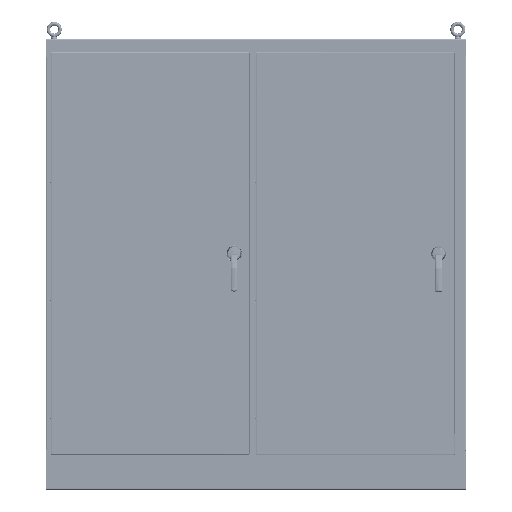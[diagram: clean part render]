
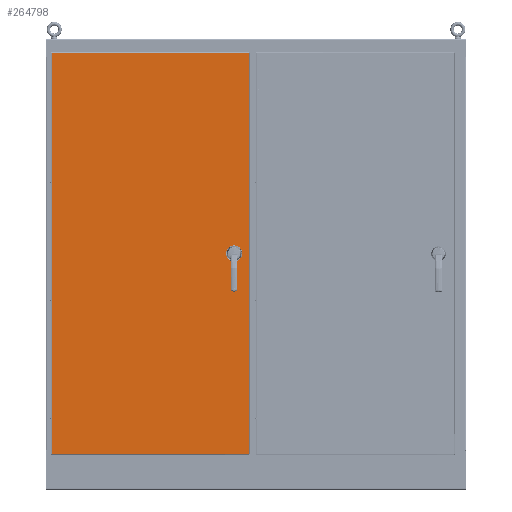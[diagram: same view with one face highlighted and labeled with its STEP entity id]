
A CAD part, top view. The second image highlights one B-rep face of the part: STEP entity #264798.
In plain terms, the highlighted planar face has unit normal (0, 0, 1).
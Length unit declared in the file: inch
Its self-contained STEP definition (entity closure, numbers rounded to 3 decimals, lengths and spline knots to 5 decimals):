
#2548 = DIRECTION ( 'NONE',  ( 1., 0., 0. ) ) ;
#10810 = VERTEX_POINT ( 'NONE', #206520 ) ;
#15557 = CARTESIAN_POINT ( 'NONE',  ( 14.922, 0., 0.097 ) ) ;
#15565 = CARTESIAN_POINT ( 'NONE',  ( 15.406, 0., 0.097 ) ) ;
#20837 = ORIENTED_EDGE ( 'NONE', *, *, #73776, .T. ) ;
#21430 = CARTESIAN_POINT ( 'NONE',  ( 16.5935, 0., 0.097 ) ) ;
#34531 = EDGE_CURVE ( 'NONE', #68730, #172227, #241942, .T. ) ;
#34646 = CARTESIAN_POINT ( 'NONE',  ( -18.3755, -37.388, 0.097 ) ) ;
#36219 = AXIS2_PLACEMENT_3D ( 'NONE', #21430, #62578, #64396 ) ;
#36306 = AXIS2_PLACEMENT_3D ( 'NONE', #265255, #223193, #78820 ) ;
#43760 = CARTESIAN_POINT ( 'NONE',  ( 14.7815, 0., 0.097 ) ) ;
#52801 = EDGE_LOOP ( 'NONE', ( #238239, #180896, #20837, #133561 ) ) ;
#54551 = CARTESIAN_POINT ( 'NONE',  ( -18.5625, 37.575, 0.097 ) ) ;
#58219 = DIRECTION ( 'NONE',  ( 0., 0., 1. ) ) ;
#58711 = FACE_BOUND ( 'NONE', #75690, .T. ) ;
#61120 = VERTEX_POINT ( 'NONE', #15557 ) ;
#62578 = DIRECTION ( 'NONE',  ( 0., 0., 1. ) ) ;
#64396 = DIRECTION ( 'NONE',  ( 1., 0., 0. ) ) ;
#64444 = CARTESIAN_POINT ( 'NONE',  ( 394.3125, 37.388, 0.097 ) ) ;
#65942 = LINE ( 'NONE', #64444, #157525 ) ;
#66273 = AXIS2_PLACEMENT_3D ( 'NONE', #54551, #159676, #76419 ) ;
#68730 = VERTEX_POINT ( 'NONE', #75955 ) ;
#71832 = ORIENTED_EDGE ( 'NONE', *, *, #250217, .F. ) ;
#73198 = EDGE_CURVE ( 'NONE', #207415, #61120, #173984, .T. ) ;
#73776 = EDGE_CURVE ( 'NONE', #213239, #68730, #65942, .T. ) ;
#74668 = CARTESIAN_POINT ( 'NONE',  ( -18.5625, -37.388, 0.097 ) ) ;
#75690 = EDGE_LOOP ( 'NONE', ( #71832, #144817 ) ) ;
#75955 = CARTESIAN_POINT ( 'NONE',  ( -18.3755, 37.388, 0.097 ) ) ;
#76419 = DIRECTION ( 'NONE',  ( -1., 0., 0. ) ) ;
#77310 = PLANE ( 'NONE',  #66273 ) ;
#78820 = DIRECTION ( 'NONE',  ( 1., 0., 0. ) ) ;
#93191 = ORIENTED_EDGE ( 'NONE', *, *, #249765, .F. ) ;
#93871 = AXIS2_PLACEMENT_3D ( 'NONE', #266526, #58219, #224441 ) ;
#105965 = DIRECTION ( 'NONE',  ( 0., 0., 1. ) ) ;
#108542 = CIRCLE ( 'NONE', #188185, 0.1405 ) ;
#108630 = VERTEX_POINT ( 'NONE', #220242 ) ;
#113112 = AXIS2_PLACEMENT_3D ( 'NONE', #252099, #105965, #127048 ) ;
#113218 = ORIENTED_EDGE ( 'NONE', *, *, #115672, .F. ) ;
#115672 = EDGE_CURVE ( 'NONE', #124505, #10810, #137404, .T. ) ;
#118322 = DIRECTION ( 'NONE',  ( 0., 0., 1. ) ) ;
#124505 = VERTEX_POINT ( 'NONE', #136838 ) ;
#127048 = DIRECTION ( 'NONE',  ( 1., 0., 0. ) ) ;
#133561 = ORIENTED_EDGE ( 'NONE', *, *, #34531, .T. ) ;
#136838 = CARTESIAN_POINT ( 'NONE',  ( 16.734, 0., 0.097 ) ) ;
#137404 = CIRCLE ( 'NONE', #36219, 0.1405 ) ;
#140295 = CARTESIAN_POINT ( 'NONE',  ( 16.5935, 0., 0.097 ) ) ;
#144817 = ORIENTED_EDGE ( 'NONE', *, *, #178457, .F. ) ;
#145696 = EDGE_CURVE ( 'NONE', #172227, #197266, #182206, .T. ) ;
#154422 = CARTESIAN_POINT ( 'NONE',  ( 14.641, 0., 0.097 ) ) ;
#157525 = VECTOR ( 'NONE', #252623, 39.37008 ) ;
#159676 = DIRECTION ( 'NONE',  ( 0., 0., -1. ) ) ;
#161559 = DIRECTION ( 'NONE',  ( 1., 0., 0. ) ) ;
#162206 = CIRCLE ( 'NONE', #113112, 0.1405 ) ;
#163382 = FACE_BOUND ( 'NONE', #267820, .T. ) ;
#163588 = EDGE_CURVE ( 'NONE', #197266, #213239, #179834, .T. ) ;
#168699 = DIRECTION ( 'NONE',  ( 0., 1., 0. ) ) ;
#169907 = FACE_OUTER_BOUND ( 'NONE', #52801, .T. ) ;
#172227 = VERTEX_POINT ( 'NONE', #34646 ) ;
#173984 = CIRCLE ( 'NONE', #176397, 0.1405 ) ;
#176397 = AXIS2_PLACEMENT_3D ( 'NONE', #43760, #252943, #2548 ) ;
#178457 = EDGE_CURVE ( 'NONE', #268612, #108630, #209392, .T. ) ;
#179834 = LINE ( 'NONE', #251784, #183257 ) ;
#180896 = ORIENTED_EDGE ( 'NONE', *, *, #163588, .T. ) ;
#182206 = LINE ( 'NONE', #74668, #263964 ) ;
#183257 = VECTOR ( 'NONE', #168699, 39.37008 ) ;
#188185 = AXIS2_PLACEMENT_3D ( 'NONE', #140295, #118322, #245162 ) ;
#197266 = VERTEX_POINT ( 'NONE', #258185 ) ;
#205408 = CARTESIAN_POINT ( 'NONE',  ( 18.3755, 37.388, 0.097 ) ) ;
#206520 = CARTESIAN_POINT ( 'NONE',  ( 16.453, 0., 0.097 ) ) ;
#207415 = VERTEX_POINT ( 'NONE', #154422 ) ;
#209392 = CIRCLE ( 'NONE', #36306, 0.2815 ) ;
#210000 = CARTESIAN_POINT ( 'NONE',  ( -18.3755, 37.575, 0.097 ) ) ;
#213239 = VERTEX_POINT ( 'NONE', #205408 ) ;
#215731 = FACE_BOUND ( 'NONE', #264292, .T. ) ;
#220242 = CARTESIAN_POINT ( 'NONE',  ( 15.969, 0., 0.097 ) ) ;
#223193 = DIRECTION ( 'NONE',  ( 0., 0., 1. ) ) ;
#224441 = DIRECTION ( 'NONE',  ( 1., 0., 0. ) ) ;
#224818 = CIRCLE ( 'NONE', #93871, 0.2815 ) ;
#230977 = DIRECTION ( 'NONE',  ( 0., -1., 0. ) ) ;
#232286 = VECTOR ( 'NONE', #230977, 39.37008 ) ;
#236771 = EDGE_CURVE ( 'NONE', #10810, #124505, #108542, .T. ) ;
#238239 = ORIENTED_EDGE ( 'NONE', *, *, #145696, .T. ) ;
#241942 = LINE ( 'NONE', #210000, #232286 ) ;
#245162 = DIRECTION ( 'NONE',  ( 1., 0., 0. ) ) ;
#249765 = EDGE_CURVE ( 'NONE', #61120, #207415, #162206, .T. ) ;
#250217 = EDGE_CURVE ( 'NONE', #108630, #268612, #224818, .T. ) ;
#251784 = CARTESIAN_POINT ( 'NONE',  ( 18.3755, -37.575, 0.097 ) ) ;
#252099 = CARTESIAN_POINT ( 'NONE',  ( 14.7815, 0., 0.097 ) ) ;
#252623 = DIRECTION ( 'NONE',  ( -1., 0., 0. ) ) ;
#252943 = DIRECTION ( 'NONE',  ( 0., 0., 1. ) ) ;
#257291 = ORIENTED_EDGE ( 'NONE', *, *, #73198, .F. ) ;
#257703 = ORIENTED_EDGE ( 'NONE', *, *, #236771, .F. ) ;
#258185 = CARTESIAN_POINT ( 'NONE',  ( 18.3755, -37.388, 0.097 ) ) ;
#263964 = VECTOR ( 'NONE', #161559, 39.37008 ) ;
#264292 = EDGE_LOOP ( 'NONE', ( #113218, #257703 ) ) ;
#264798 = ADVANCED_FACE ( 'NONE', ( #163382, #215731, #58711, #169907 ), #77310, .F. ) ;
#265255 = CARTESIAN_POINT ( 'NONE',  ( 15.6875, 0., 0.097 ) ) ;
#266526 = CARTESIAN_POINT ( 'NONE',  ( 15.6875, 0., 0.097 ) ) ;
#267820 = EDGE_LOOP ( 'NONE', ( #93191, #257291 ) ) ;
#268612 = VERTEX_POINT ( 'NONE', #15565 ) ;
